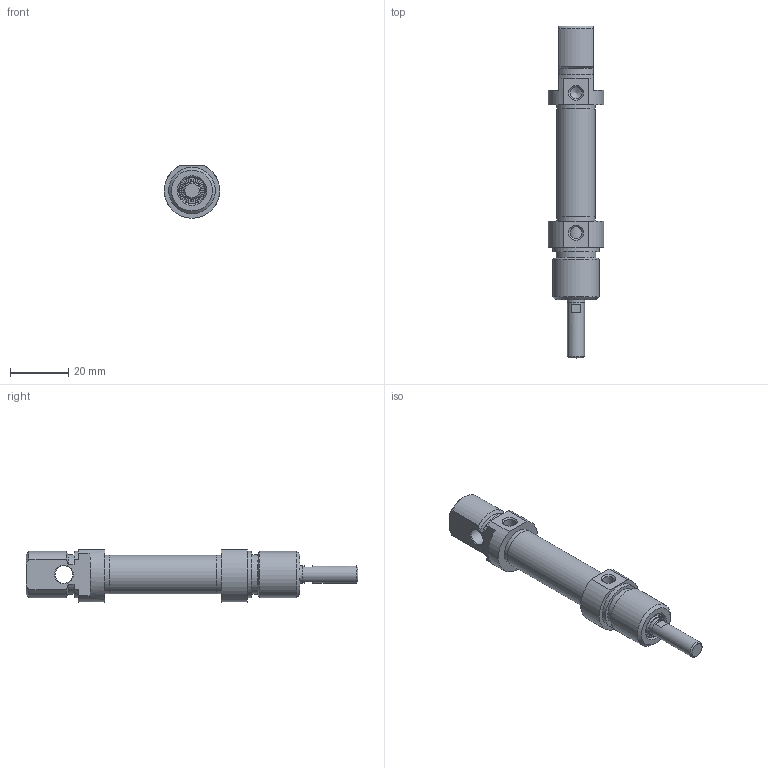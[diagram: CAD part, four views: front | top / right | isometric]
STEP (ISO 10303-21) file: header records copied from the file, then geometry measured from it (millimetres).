
FILE_DESCRIPTION((''),'2;1');
FILE_NAME('T:\Archivio Inventor\- 00 NUOVI STP PER SITO CON STELO CHE SI MUOVE\SERIE O\ODM\ODM012.---.GS.M\ODM012.010.GS.M.stp','2014-02-25T15:22:23',('carlo.corazza'),(''),'Autodesk Inventor 2012','Autodesk Inventor 2012','');
FILE_SCHEMA(('AUTOMOTIVE_DESIGN { 1 0 10303 214 1 1 1 1 }'));
Length unit declared in the file: millimetre
Products named in the file (5): ODM012..GS.M; CORPO-010; STELO-010; TA; TP
Assembly tree (4 placements, depth 2):
  ODM012..GS.M
    CORPO-010
    STELO-010
    TA
    TP
Bounding box: 18.95 x 114 x 18 mm (x, y, z)
Volume: 13655.3 mm3; surface area: 9462.8 mm2
Topology: 4 solids, 4 shells, 98 faces, 200 edges, 127 vertices
Faces by surface type: plane 38, cylinder 28, cone 24, torus 8
Full cylindrical faces by diameter (mm): 4 x1, 4.134 x2, 5.9 x1, 6 x2, 6.5 x1, 7.1 x1, 9 x1, 9.1 x1, 11.1 x1, 11.2 x1, 12 x1, 13.2 x2, 13.27 x1, 13.7 x1, 16 x2
Entity records: 2527 total; most frequent: DIRECTION 440, CARTESIAN_POINT 418, ORIENTED_EDGE 288, AXIS2_PLACEMENT_3D 198, EDGE_LOOP 166, EDGE_CURVE 144, VERTEX_POINT 118, FACE_OUTER_BOUND 98
